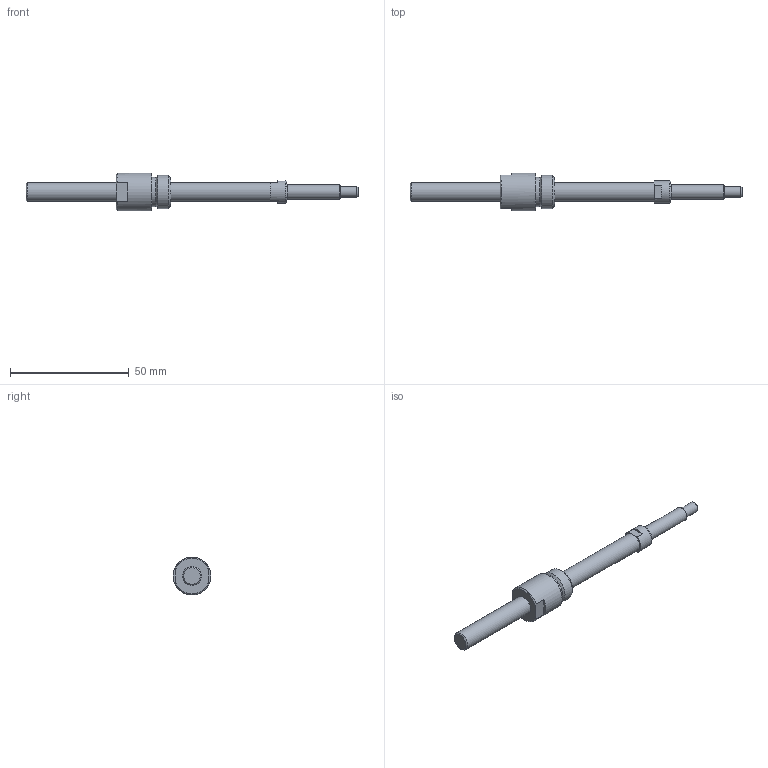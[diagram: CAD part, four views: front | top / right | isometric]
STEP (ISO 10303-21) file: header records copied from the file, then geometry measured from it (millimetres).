
FILE_DESCRIPTION(/* description */ ('STEP AP214'),/* implementation_level */ '2;1');
FILE_NAME(/* name */ 'NSG0802-099R140C5A0X(38)',/* time_stamp */ '2026-08-20T15:47:32+02:00',/* author */ ('License CC BY-ND 4.0'),/* organization */ ('CADENAS'),/* preprocessor_version */ 'ST-DEVELOPER v20',/* originating_system */ 'PARTsolutions',/* authorisation */ ' ');
FILE_SCHEMA (('AUTOMOTIVE_DESIGN {1 0 10303 214 3 1 1}'));
Length unit declared in the file: millimetre
Products named in the file (3): NSG0802-099R140C5A0X(38); NSG0802-99R140C3A_shaft; NSG0802_nut
Assembly tree (2 placements, depth 2):
  NSG0802-099R140C5A0X(38)
    NSG0802-99R140C3A_shaft
    NSG0802_nut
Bounding box: 140 x 16 x 16 mm (x, y, z)
Volume: 9345 mm3; surface area: 5418 mm2
Topology: 2 solids, 2 shells, 35 faces, 72 edges, 44 vertices
Faces by surface type: plane 17, cone 9, cylinder 8, torus 1
Full cylindrical faces by diameter (mm): 4.5 x1, 6 x1, 8 x2, 9.5 x1, 12.4 x1, 14 x1, 16 x1
Entity records: 907 total; most frequent: DIRECTION 158, CARTESIAN_POINT 146, ORIENTED_EDGE 108, AXIS2_PLACEMENT_3D 70, EDGE_LOOP 56, FACE_BOUND 56, EDGE_CURVE 54, VERTEX_POINT 42
